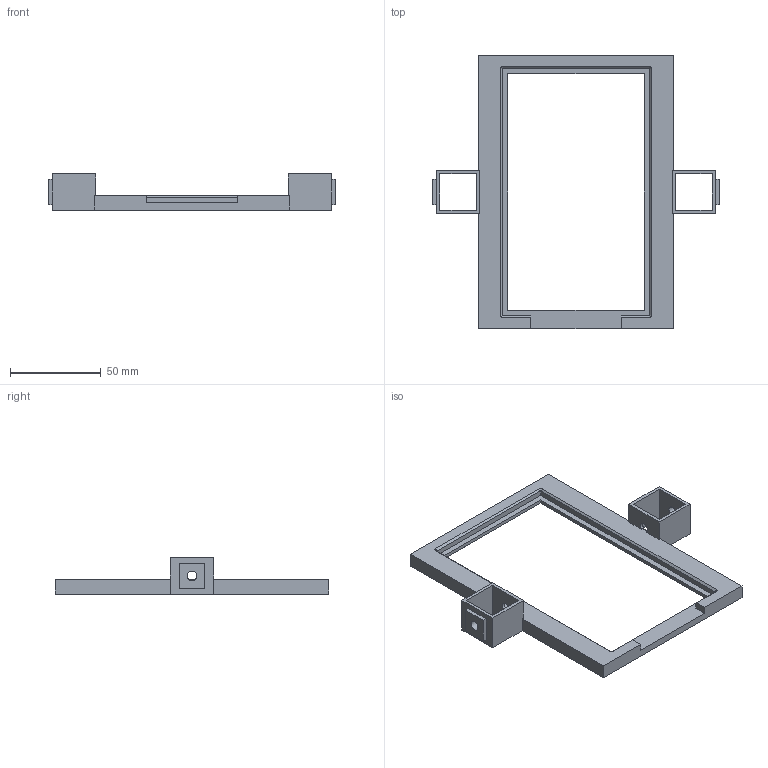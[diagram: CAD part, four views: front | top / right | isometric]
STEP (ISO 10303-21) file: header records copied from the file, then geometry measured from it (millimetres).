
FILE_DESCRIPTION(('Open CASCADE Model'),'2;1');
FILE_NAME('Open CASCADE Shape Model','2026-10-27T22:13:57',('Author'),( 'Open CASCADE'),'Open CASCADE STEP processor 7.9','Open CASCADE 7.9' ,'Unknown');
FILE_SCHEMA(('AUTOMOTIVE_DESIGN { 1 0 10303 214 1 1 1 1 }'));
Length unit declared in the file: millimetre
Products named in the file (1): Open CASCADE STEP translator 7.9 17
Bounding box: 158.4 x 151 x 20 mm (x, y, z)
Volume: 51065.2 mm3; surface area: 26645.6 mm2
Topology: 1 solids, 1 shells, 67 faces, 191 edges, 126 vertices
Faces by surface type: plane 59, cone 4, cylinder 4
Full cylindrical faces by diameter (mm): 5.5 x4
Entity records: 4782 total; most frequent: CARTESIAN_POINT 887, DIRECTION 725, LINE 517, VECTOR 517, ORIENTED_EDGE 382, PCURVE 382, DEFINITIONAL_REPRESENTATION 382, EDGE_CURVE 191
